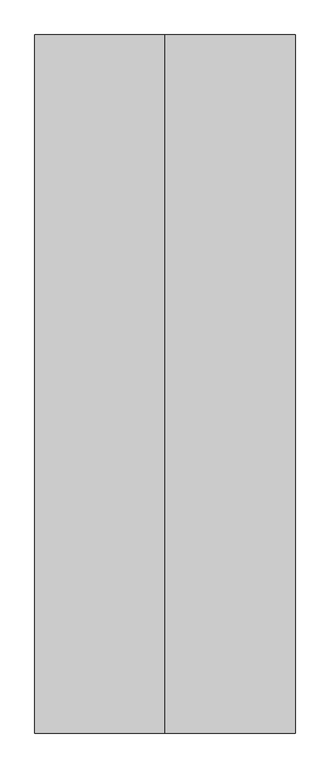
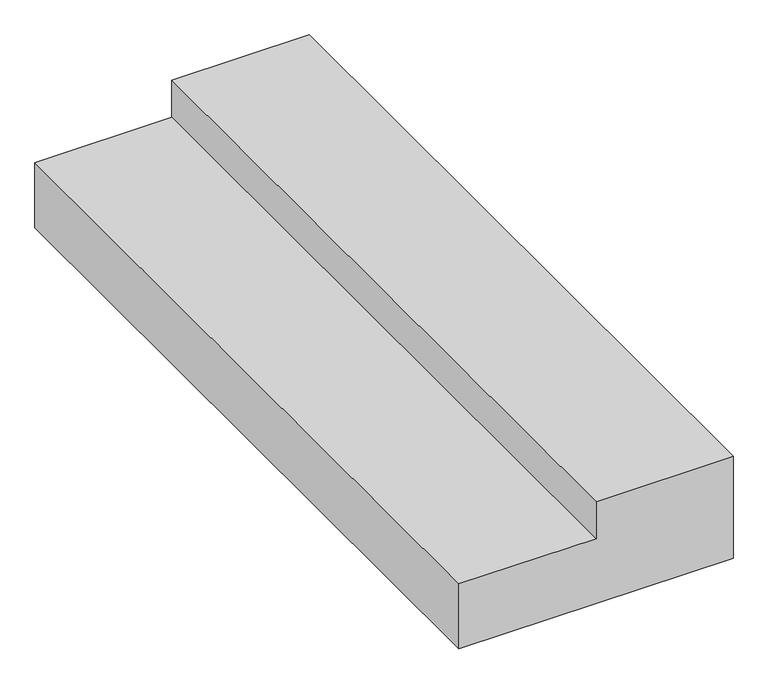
"""IFC4 building model written with IfcOpenShell, lengths in millimetres: proxy geometry, 机械设备 1 : 机械设备 1."""

from ifc_helpers import new_model, si_unit, frame, origin, place, context, project, spatial, polyline, outline, extrude, source, transform, mapped, element, save


def mechanical_equipment_79b6d416(model_context):
    return source(origin(), model_context, "Body", "SweptSolid", [
        extrude(outline(polyline([(10420.0, 25902.1385293), (10340.0, 25902.1385293), (10340.0, 25622.1385293), (10200.0, 25622.1385293), (10200.0, 26182.1385293), (10420.0, 26182.1385293), (10420.0, 25902.1385293)])), frame((0.0, 470.1856454, 0.0), z_axis=(0.0, 1.0, 0.0), x_axis=(0.0, 0.0, 1.0)), (0.0, 0.0, 1.0), 1500.0),
    ])


if __name__ == "__main__":
    model = new_model("IFC4")
    model_context = context("Model", 3, world=origin())
    ifc_project = project(units=[si_unit("LENGTHUNIT", "METRE", prefix="MILLI")], contexts=[model_context])
    site = spatial("IfcSite", under=ifc_project)
    building = spatial("IfcBuilding", under=site)
    placement = place(None, origin())
    mechanical_equipment_shape = mechanical_equipment_79b6d416(model_context)
    element("IfcBuildingElementProxy", 1, Name="机械设备 1 : 机械设备 1", ObjectType="机械设备 1 : 机械设备 1", at=placement, inside=building, context=model_context, shape_type="MappedRepresentation", body=[
        mapped(mechanical_equipment_shape, transform((0.0, 0.0, 0.0), x_axis=(1.0, 0.0, 0.0), y_axis=(0.0, 1.0, 0.0), z_axis=(0.0, 0.0, 1.0))),
    ])
    save(model, "model.ifc")
